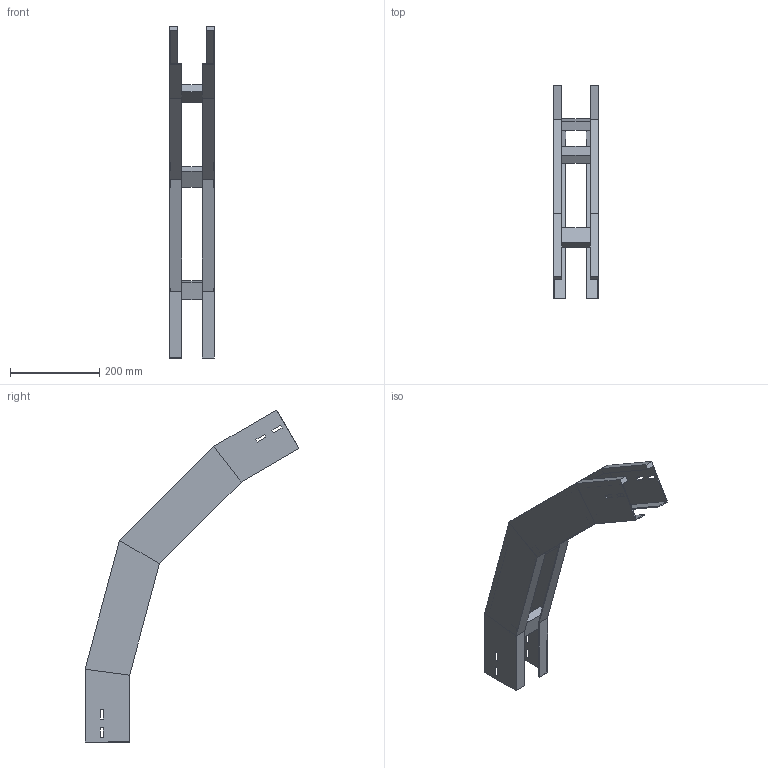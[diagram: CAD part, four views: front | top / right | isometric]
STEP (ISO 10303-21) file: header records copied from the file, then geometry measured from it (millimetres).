
FILE_DESCRIPTION (( 'STEP AP214' ), '1' );
FILE_NAME ('41B5D100.step', '2025-02-21T14:55:53', ( '' ), ( '' ), 'SwSTEP 2.0', 'SolidWorks 2023', '' );
FILE_SCHEMA (( 'AUTOMOTIVE_DESIGN' ));
Length unit declared in the file: millimetre
Products named in the file (3): 41B5D100; LONGH.DISCESA_60°_H100_R500; TRAVERSINO_100
Assembly tree (5 placements, depth 2):
  41B5D100
    LONGH.DISCESA_60°_H100_R500  x2
    TRAVERSINO_100  x3
Bounding box: 100 x 480.08 x 744.92 mm (x, y, z)
Volume: 1013636.7 mm3; surface area: 536009.5 mm2
Topology: 5 solids, 5 shells, 118 faces, 276 edges, 168 vertices
Faces by surface type: plane 118
Entity records: 1672 total; most frequent: CARTESIAN_POINT 276, ORIENTED_EDGE 264, DIRECTION 260, EDGE_CURVE 132, VECTOR 132, LINE 132, VERTEX_POINT 80, EDGE_LOOP 64
